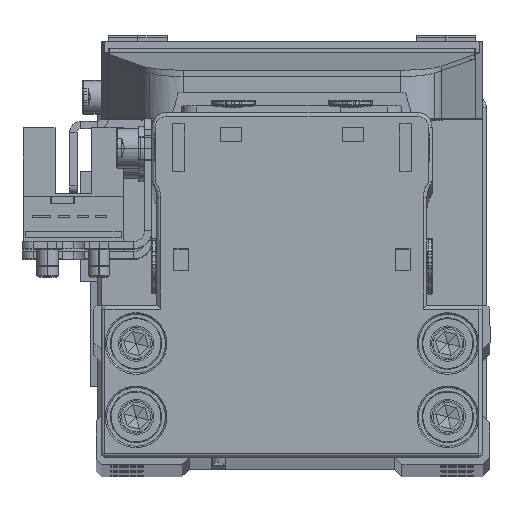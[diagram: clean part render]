
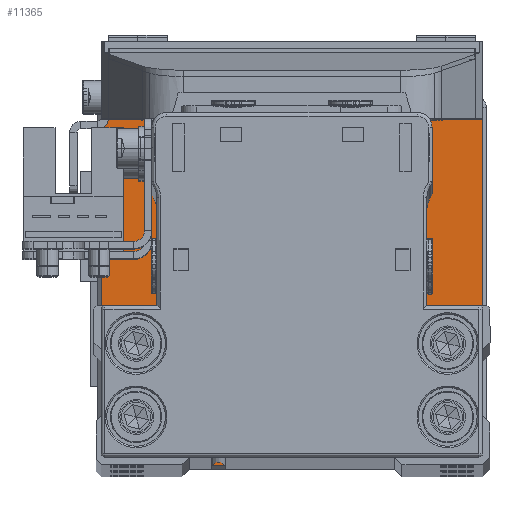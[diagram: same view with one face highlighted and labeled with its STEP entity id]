
A CAD part, top view. The second image highlights one B-rep face of the part: STEP entity #11365.
In plain terms, the highlighted planar face has unit normal (0, 0, 1).
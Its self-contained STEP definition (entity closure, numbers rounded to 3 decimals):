
#140 = EDGE_CURVE ( 'NONE', #30588, #26297, #31315, .T. ) ;
#390 = ORIENTED_EDGE ( 'NONE', *, *, #19457, .T. ) ;
#469 = CARTESIAN_POINT ( 'NONE',  ( -25., -24.95, 6.5 ) ) ;
#498 = AXIS2_PLACEMENT_3D ( 'NONE', #33653, #9627, #20345 ) ;
#564 = FACE_BOUND ( 'NONE', #2861, .T. ) ;
#661 = AXIS2_PLACEMENT_3D ( 'NONE', #30135, #6097, #16791 ) ;
#903 = ORIENTED_EDGE ( 'NONE', *, *, #9803, .T. ) ;
#1671 = CARTESIAN_POINT ( 'NONE',  ( -25., 23.95, 6.5 ) ) ;
#1911 = CARTESIAN_POINT ( 'NONE',  ( 21.25, 9.95, 6.5 ) ) ;
#2667 = VERTEX_POINT ( 'NONE', #27008 ) ;
#2861 = EDGE_LOOP ( 'NONE', ( #390, #28131 ) ) ;
#3346 = DIRECTION ( 'NONE',  ( -1., 0., 0. ) ) ;
#3443 = ORIENTED_EDGE ( 'NONE', *, *, #13623, .T. ) ;
#3607 = EDGE_CURVE ( 'NONE', #5566, #10971, #30765, .T. ) ;
#3880 = DIRECTION ( 'NONE',  ( 0., 0., -1. ) ) ;
#3929 = VERTEX_POINT ( 'NONE', #16422 ) ;
#4231 = ORIENTED_EDGE ( 'NONE', *, *, #21045, .T. ) ;
#4277 = LINE ( 'NONE', #14969, #25251 ) ;
#4362 = AXIS2_PLACEMENT_3D ( 'NONE', #1911, #12594, #23299 ) ;
#4364 = VERTEX_POINT ( 'NONE', #21842 ) ;
#4553 = CARTESIAN_POINT ( 'NONE',  ( 25., 24.95, 6.5 ) ) ;
#4809 = DIRECTION ( 'NONE',  ( -1., 0., 0. ) ) ;
#5566 = VERTEX_POINT ( 'NONE', #24112 ) ;
#5665 = ORIENTED_EDGE ( 'NONE', *, *, #3607, .T. ) ;
#5913 = EDGE_CURVE ( 'NONE', #23556, #10043, #4277, .T. ) ;
#5991 = DIRECTION ( 'NONE',  ( 0., 0., 1. ) ) ;
#6097 = DIRECTION ( 'NONE',  ( 0., 0., -1. ) ) ;
#6241 = CARTESIAN_POINT ( 'NONE',  ( -21.25, 19.95, 6.5 ) ) ;
#6257 = CARTESIAN_POINT ( 'NONE',  ( 26., -23.95, 6.5 ) ) ;
#6334 = ORIENTED_EDGE ( 'NONE', *, *, #6940, .T. ) ;
#6827 = EDGE_CURVE ( 'NONE', #15139, #30588, #10252, .T. ) ;
#6940 = EDGE_CURVE ( 'NONE', #17945, #15139, #21147, .T. ) ;
#7180 = CIRCLE ( 'NONE', #26799, 2.4 ) ;
#7226 = DIRECTION ( 'NONE',  ( -1., 0., 0. ) ) ;
#7269 = CARTESIAN_POINT ( 'NONE',  ( -25., 24.95, 6.5 ) ) ;
#7613 = DIRECTION ( 'NONE',  ( 0., 0., 1. ) ) ;
#7795 = DIRECTION ( 'NONE',  ( 0., 1., 0. ) ) ;
#8612 = FACE_OUTER_BOUND ( 'NONE', #12476, .T. ) ;
#8708 = CIRCLE ( 'NONE', #28319, 2.4 ) ;
#9034 = ORIENTED_EDGE ( 'NONE', *, *, #140, .T. ) ;
#9178 = ORIENTED_EDGE ( 'NONE', *, *, #30558, .T. ) ;
#9367 = DIRECTION ( 'NONE',  ( 0., -1., 0. ) ) ;
#9439 = DIRECTION ( 'NONE',  ( 0., 0., -1. ) ) ;
#9627 = DIRECTION ( 'NONE',  ( 0., 0., 1. ) ) ;
#9803 = EDGE_CURVE ( 'NONE', #12882, #10393, #32341, .T. ) ;
#9916 = CARTESIAN_POINT ( 'NONE',  ( 25., 23.95, 6.5 ) ) ;
#10043 = VERTEX_POINT ( 'NONE', #16682 ) ;
#10101 = ORIENTED_EDGE ( 'NONE', *, *, #30384, .T. ) ;
#10252 = CIRCLE ( 'NONE', #29875, 1. ) ;
#10393 = VERTEX_POINT ( 'NONE', #31721 ) ;
#10466 = VECTOR ( 'NONE', #9367, 1000. ) ;
#10971 = VERTEX_POINT ( 'NONE', #16240 ) ;
#11238 = FACE_BOUND ( 'NONE', #18424, .T. ) ;
#11365 = ADVANCED_FACE ( 'NONE', ( #564, #11238, #21964, #32649, #8612 ), #19329, .T. ) ;
#12358 = DIRECTION ( 'NONE',  ( 0., 0., 1. ) ) ;
#12476 = EDGE_LOOP ( 'NONE', ( #24469, #4231, #9178, #14992, #3443, #6334, #12663, #9034 ) ) ;
#12594 = DIRECTION ( 'NONE',  ( 0., 0., -1. ) ) ;
#12642 = CIRCLE ( 'NONE', #32241, 2.4 ) ;
#12663 = ORIENTED_EDGE ( 'NONE', *, *, #6827, .T. ) ;
#12691 = CARTESIAN_POINT ( 'NONE',  ( -26., 23.95, 6.5 ) ) ;
#12853 = ORIENTED_EDGE ( 'NONE', *, *, #34401, .T. ) ;
#12882 = VERTEX_POINT ( 'NONE', #21800 ) ;
#13182 = EDGE_LOOP ( 'NONE', ( #903, #10101 ) ) ;
#13623 = EDGE_CURVE ( 'NONE', #10043, #17945, #17870, .T. ) ;
#13760 = ORIENTED_EDGE ( 'NONE', *, *, #15211, .T. ) ;
#13834 = AXIS2_PLACEMENT_3D ( 'NONE', #1671, #12358, #23067 ) ;
#13996 = AXIS2_PLACEMENT_3D ( 'NONE', #6241, #16936, #27637 ) ;
#14563 = DIRECTION ( 'NONE',  ( -1., 0., 0. ) ) ;
#14777 = VERTEX_POINT ( 'NONE', #27888 ) ;
#14842 = VECTOR ( 'NONE', #17979, 1000. ) ;
#14969 = CARTESIAN_POINT ( 'NONE',  ( 25., -24.95, 6.5 ) ) ;
#14992 = ORIENTED_EDGE ( 'NONE', *, *, #5913, .T. ) ;
#15139 = VERTEX_POINT ( 'NONE', #32213 ) ;
#15211 = EDGE_CURVE ( 'NONE', #14777, #3929, #15748, .T. ) ;
#15282 = EDGE_LOOP ( 'NONE', ( #5665, #12853 ) ) ;
#15592 = CIRCLE ( 'NONE', #498, 1. ) ;
#15629 = AXIS2_PLACEMENT_3D ( 'NONE', #33460, #9439, #20167 ) ;
#15748 = CIRCLE ( 'NONE', #661, 2.4 ) ;
#15786 = EDGE_CURVE ( 'NONE', #4364, #30026, #12642, .T. ) ;
#16240 = CARTESIAN_POINT ( 'NONE',  ( -18.85, 19.95, 6.5 ) ) ;
#16422 = CARTESIAN_POINT ( 'NONE',  ( 18.85, 9.95, 6.5 ) ) ;
#16661 = CARTESIAN_POINT ( 'NONE',  ( -21.25, 9.95, 6.5 ) ) ;
#16682 = CARTESIAN_POINT ( 'NONE',  ( 25., -24.95, 6.5 ) ) ;
#16687 = DIRECTION ( 'NONE',  ( 1., 0., 0. ) ) ;
#16791 = DIRECTION ( 'NONE',  ( -1., 0., 0. ) ) ;
#16936 = DIRECTION ( 'NONE',  ( 0., 0., -1. ) ) ;
#17870 = CIRCLE ( 'NONE', #22370, 1. ) ;
#17945 = VERTEX_POINT ( 'NONE', #6257 ) ;
#17979 = DIRECTION ( 'NONE',  ( -1., 0., 0. ) ) ;
#18147 = CARTESIAN_POINT ( 'NONE',  ( 21.25, 19.95, 6.5 ) ) ;
#18318 = DIRECTION ( 'NONE',  ( 1., 0., 0. ) ) ;
#18424 = EDGE_LOOP ( 'NONE', ( #32537, #13760 ) ) ;
#19329 = PLANE ( 'NONE',  #21818 ) ;
#19457 = EDGE_CURVE ( 'NONE', #30026, #4364, #8708, .T. ) ;
#19507 = CIRCLE ( 'NONE', #4362, 2.4 ) ;
#20167 = DIRECTION ( 'NONE',  ( -1., 0., 0. ) ) ;
#20345 = DIRECTION ( 'NONE',  ( 1., 0., 0. ) ) ;
#20584 = CARTESIAN_POINT ( 'NONE',  ( -21.25, 9.95, 6.5 ) ) ;
#20650 = DIRECTION ( 'NONE',  ( 0., 0., 1. ) ) ;
#21045 = EDGE_CURVE ( 'NONE', #25605, #2667, #22703, .T. ) ;
#21147 = LINE ( 'NONE', #31834, #26502 ) ;
#21535 = EDGE_CURVE ( 'NONE', #3929, #14777, #19507, .T. ) ;
#21719 = AXIS2_PLACEMENT_3D ( 'NONE', #20584, #31265, #7226 ) ;
#21800 = CARTESIAN_POINT ( 'NONE',  ( -23.65, 9.95, 6.5 ) ) ;
#21818 = AXIS2_PLACEMENT_3D ( 'NONE', #30017, #5991, #16687 ) ;
#21842 = CARTESIAN_POINT ( 'NONE',  ( 23.65, 19.95, 6.5 ) ) ;
#21964 = FACE_BOUND ( 'NONE', #13182, .T. ) ;
#22370 = AXIS2_PLACEMENT_3D ( 'NONE', #31645, #7613, #18318 ) ;
#22703 = LINE ( 'NONE', #33386, #10466 ) ;
#22835 = CARTESIAN_POINT ( 'NONE',  ( 18.85, 19.95, 6.5 ) ) ;
#23067 = DIRECTION ( 'NONE',  ( 1., 0., 0. ) ) ;
#23299 = DIRECTION ( 'NONE',  ( -1., 0., 0. ) ) ;
#23556 = VERTEX_POINT ( 'NONE', #469 ) ;
#24112 = CARTESIAN_POINT ( 'NONE',  ( -23.65, 19.95, 6.5 ) ) ;
#24469 = ORIENTED_EDGE ( 'NONE', *, *, #27270, .T. ) ;
#24915 = CARTESIAN_POINT ( 'NONE',  ( -25., 24.95, 6.5 ) ) ;
#25251 = VECTOR ( 'NONE', #25675, 1000. ) ;
#25605 = VERTEX_POINT ( 'NONE', #12691 ) ;
#25675 = DIRECTION ( 'NONE',  ( 1., 0., 0. ) ) ;
#26297 = VERTEX_POINT ( 'NONE', #24915 ) ;
#26502 = VECTOR ( 'NONE', #7795, 1000. ) ;
#26799 = AXIS2_PLACEMENT_3D ( 'NONE', #16661, #27367, #3346 ) ;
#27008 = CARTESIAN_POINT ( 'NONE',  ( -26., -23.95, 6.5 ) ) ;
#27270 = EDGE_CURVE ( 'NONE', #26297, #25605, #28961, .T. ) ;
#27367 = DIRECTION ( 'NONE',  ( 0., 0., -1. ) ) ;
#27637 = DIRECTION ( 'NONE',  ( -1., 0., 0. ) ) ;
#27888 = CARTESIAN_POINT ( 'NONE',  ( 23.65, 9.95, 6.5 ) ) ;
#27905 = CARTESIAN_POINT ( 'NONE',  ( 21.25, 19.95, 6.5 ) ) ;
#28131 = ORIENTED_EDGE ( 'NONE', *, *, #15786, .T. ) ;
#28319 = AXIS2_PLACEMENT_3D ( 'NONE', #18147, #28848, #4809 ) ;
#28848 = DIRECTION ( 'NONE',  ( 0., 0., -1. ) ) ;
#28961 = CIRCLE ( 'NONE', #13834, 1. ) ;
#29114 = CIRCLE ( 'NONE', #13996, 2.4 ) ;
#29875 = AXIS2_PLACEMENT_3D ( 'NONE', #9916, #20650, #31335 ) ;
#30017 = CARTESIAN_POINT ( 'NONE',  ( 0., 0., 6.5 ) ) ;
#30026 = VERTEX_POINT ( 'NONE', #22835 ) ;
#30135 = CARTESIAN_POINT ( 'NONE',  ( 21.25, 9.95, 6.5 ) ) ;
#30384 = EDGE_CURVE ( 'NONE', #10393, #12882, #7180, .T. ) ;
#30558 = EDGE_CURVE ( 'NONE', #2667, #23556, #15592, .T. ) ;
#30588 = VERTEX_POINT ( 'NONE', #4553 ) ;
#30765 = CIRCLE ( 'NONE', #15629, 2.4 ) ;
#31265 = DIRECTION ( 'NONE',  ( 0., 0., -1. ) ) ;
#31315 = LINE ( 'NONE', #7269, #14842 ) ;
#31335 = DIRECTION ( 'NONE',  ( 1., 0., 0. ) ) ;
#31645 = CARTESIAN_POINT ( 'NONE',  ( 25., -23.95, 6.5 ) ) ;
#31721 = CARTESIAN_POINT ( 'NONE',  ( -18.85, 9.95, 6.5 ) ) ;
#31834 = CARTESIAN_POINT ( 'NONE',  ( 26., 23.95, 6.5 ) ) ;
#32213 = CARTESIAN_POINT ( 'NONE',  ( 26., 23.95, 6.5 ) ) ;
#32241 = AXIS2_PLACEMENT_3D ( 'NONE', #27905, #3880, #14563 ) ;
#32341 = CIRCLE ( 'NONE', #21719, 2.4 ) ;
#32537 = ORIENTED_EDGE ( 'NONE', *, *, #21535, .T. ) ;
#32649 = FACE_BOUND ( 'NONE', #15282, .T. ) ;
#33386 = CARTESIAN_POINT ( 'NONE',  ( -26., -23.95, 6.5 ) ) ;
#33460 = CARTESIAN_POINT ( 'NONE',  ( -21.25, 19.95, 6.5 ) ) ;
#33653 = CARTESIAN_POINT ( 'NONE',  ( -25., -23.95, 6.5 ) ) ;
#34401 = EDGE_CURVE ( 'NONE', #10971, #5566, #29114, .T. ) ;
